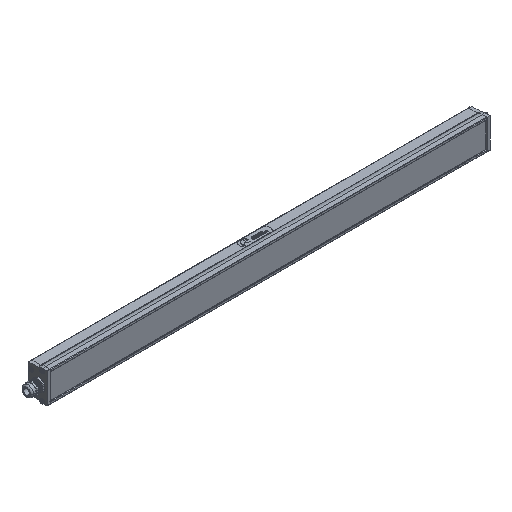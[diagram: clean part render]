
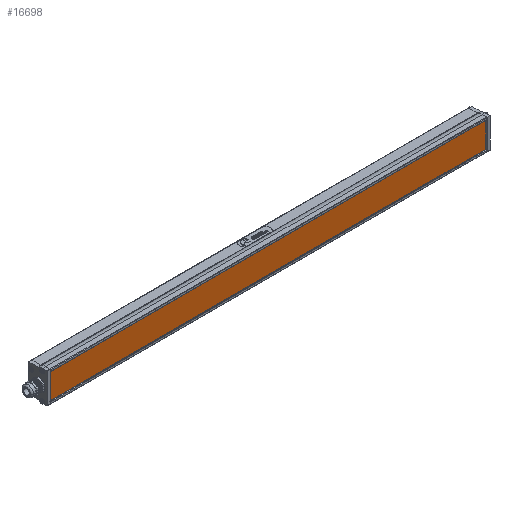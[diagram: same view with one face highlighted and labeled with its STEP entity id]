
A CAD part, isometric view. The second image highlights one B-rep face of the part: STEP entity #16698.
In plain terms, the highlighted planar face has unit normal (0, -1, 0) as drawn and (0, 1, 0) by its records, which use the part's own axes.
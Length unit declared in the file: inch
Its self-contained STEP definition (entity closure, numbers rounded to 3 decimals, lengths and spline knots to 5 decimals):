
#134 = CARTESIAN_POINT ( 'NONE',  ( 9.135, 0.03, -0.586 ) ) ;
#168 = EDGE_LOOP ( 'NONE', ( #11938, #1284, #29817, #29582 ) ) ;
#1284 = ORIENTED_EDGE ( 'NONE', *, *, #9422, .T. ) ;
#1307 = DIRECTION ( 'NONE',  ( 0., 0., 1. ) ) ;
#1676 = VECTOR ( 'NONE', #24849, 39.37008 ) ;
#2125 = CARTESIAN_POINT ( 'NONE',  ( -9.135, 0.03, -0.586 ) ) ;
#5302 = LINE ( 'NONE', #28398, #31116 ) ;
#5677 = FACE_OUTER_BOUND ( 'NONE', #168, .T. ) ;
#9422 = EDGE_CURVE ( 'NONE', #28117, #11320, #31719, .T. ) ;
#10569 = LINE ( 'NONE', #23593, #10945 ) ;
#10945 = VECTOR ( 'NONE', #1307, 39.37008 ) ;
#11320 = VERTEX_POINT ( 'NONE', #28579 ) ;
#11938 = ORIENTED_EDGE ( 'NONE', *, *, #25386, .T. ) ;
#12354 = AXIS2_PLACEMENT_3D ( 'NONE', #21968, #22288, #16911 ) ;
#12449 = CARTESIAN_POINT ( 'NONE',  ( -9.135, 0.03, 0.586 ) ) ;
#13249 = DIRECTION ( 'NONE',  ( -1., 0., 0. ) ) ;
#16698 = ADVANCED_FACE ( 'NONE', ( #5677 ), #19411, .T. ) ;
#16911 = DIRECTION ( 'NONE',  ( 0., 0., 1. ) ) ;
#18287 = VERTEX_POINT ( 'NONE', #134 ) ;
#19411 = PLANE ( 'NONE',  #12354 ) ;
#19772 = CARTESIAN_POINT ( 'NONE',  ( 9.135, 0.03, -0.586 ) ) ;
#20106 = CARTESIAN_POINT ( 'NONE',  ( -9.135, 0.03, 0.586 ) ) ;
#20263 = EDGE_CURVE ( 'NONE', #18287, #21535, #5302, .T. ) ;
#21535 = VERTEX_POINT ( 'NONE', #2125 ) ;
#21704 = LINE ( 'NONE', #19772, #1676 ) ;
#21968 = CARTESIAN_POINT ( 'NONE',  ( -9.135, 0.03, 0.586 ) ) ;
#22288 = DIRECTION ( 'NONE',  ( 0., 1., 0. ) ) ;
#22548 = DIRECTION ( 'NONE',  ( 1., 0., 0. ) ) ;
#23593 = CARTESIAN_POINT ( 'NONE',  ( -9.135, 0.03, -0.586 ) ) ;
#24849 = DIRECTION ( 'NONE',  ( 0., 0., -1. ) ) ;
#25111 = VECTOR ( 'NONE', #22548, 39.37008 ) ;
#25386 = EDGE_CURVE ( 'NONE', #21535, #28117, #10569, .T. ) ;
#28117 = VERTEX_POINT ( 'NONE', #12449 ) ;
#28398 = CARTESIAN_POINT ( 'NONE',  ( -9.135, 0.03, -0.586 ) ) ;
#28579 = CARTESIAN_POINT ( 'NONE',  ( 9.135, 0.03, 0.586 ) ) ;
#29582 = ORIENTED_EDGE ( 'NONE', *, *, #20263, .T. ) ;
#29633 = EDGE_CURVE ( 'NONE', #11320, #18287, #21704, .T. ) ;
#29817 = ORIENTED_EDGE ( 'NONE', *, *, #29633, .T. ) ;
#31116 = VECTOR ( 'NONE', #13249, 39.37008 ) ;
#31719 = LINE ( 'NONE', #20106, #25111 ) ;
